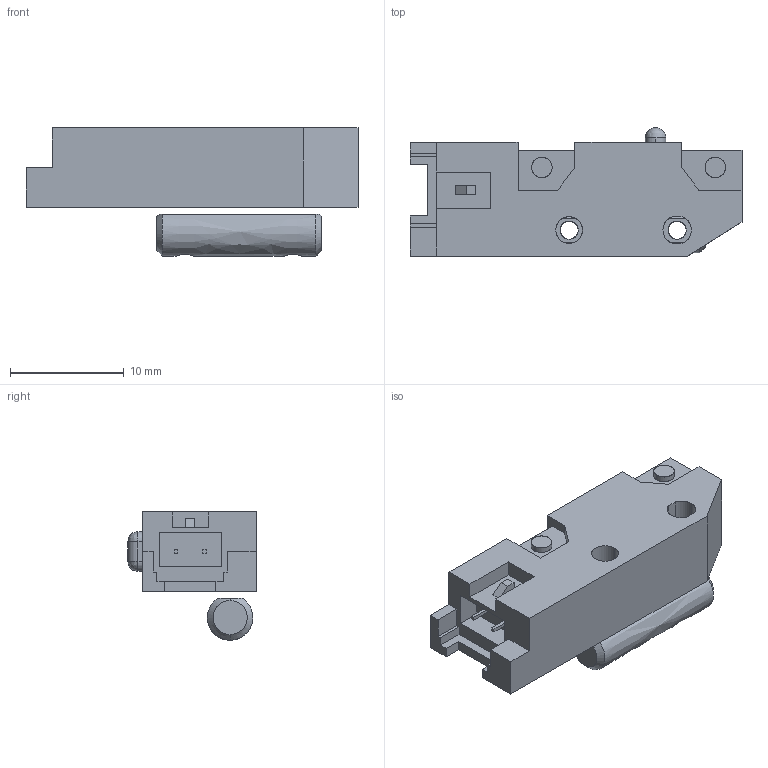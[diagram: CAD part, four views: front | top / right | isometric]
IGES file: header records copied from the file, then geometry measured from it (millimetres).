
Start section: SolidWorks IGES file using analytic representation for surfaces
Global section: file name: C:\Documents and Settings\CAD56\デスクトップ\２０１０則武編集\HC1-5(10)(20)-C1\072709\072709.IGS,41HSolidWorks; native system: 2006 by SolidWorks Corporation; preprocessor: SolidWorks 2006 by SolidWorks Corporation; author: CAD56; date: 100609.181548; units: millimetre
Bounding box: 29.2 x 11.3 x 11.3 mm (x, y, z)
Surface area: 1482.8 mm2 (no closed solid volume)
Topology: 0 solids, 0 shells, 103 faces, 1071 edges, 1067 vertices
Faces by surface type: bspline 76, revolution 27
